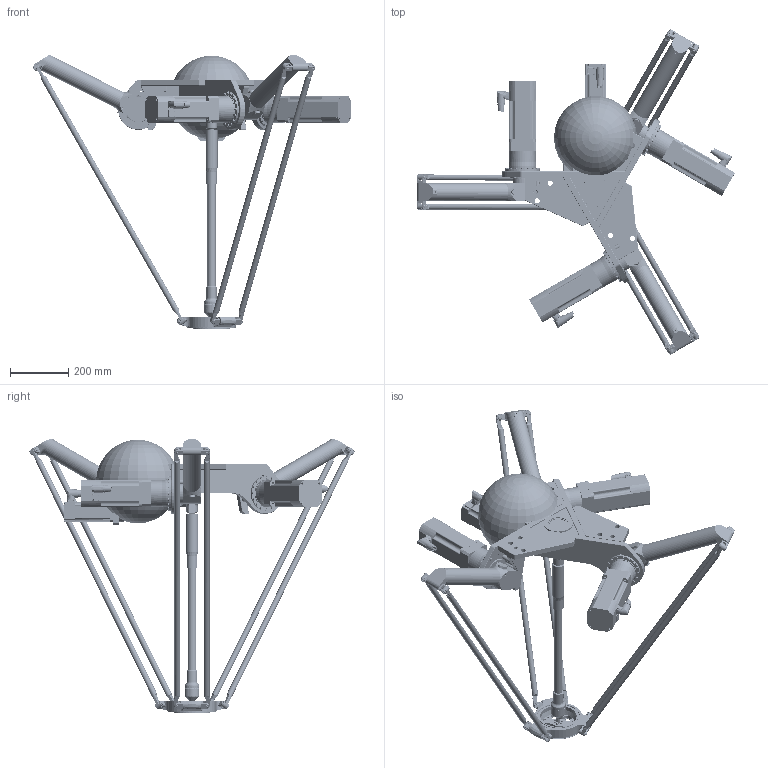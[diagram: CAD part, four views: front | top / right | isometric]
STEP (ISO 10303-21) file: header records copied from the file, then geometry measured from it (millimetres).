
FILE_DESCRIPTION (( 'STEP AP214' ), '1' );
FILE_NAME ('DR4120C-AX006.STEP', '2020-04-07T06:48:44', ( '' ), ( '' ), 'SwSTEP 2.0', 'SolidWorks 2017', '' );
FILE_SCHEMA (( 'AUTOMOTIVE_DESIGN' ));
Length unit declared in the file: millimetre
Products named in the file (4): DR4120C-AX006_3D_ohne_Motor; 8LSA35_DB060S200_3_5; DR4120C-AX006; 8LSAA2_D9045S200_3_1
Assembly tree (5 placements, depth 2):
  DR4120C-AX006
    DR4120C-AX006_3D_ohne_Motor
    8LSAA2_D9045S200_3_1
    8LSA35_DB060S200_3_5  x3
Bounding box: 1088.24 x 1112.38 x 938.36 mm (x, y, z)
Volume: 32454040.2 mm3; surface area: 2755901.6 mm2
Topology: 32 solids, 64 shells, 4996 faces, 11808 edges, 7534 vertices
Faces by surface type: plane 2686, cylinder 1450, cone 562, bspline 296, torus 2
Full cylindrical faces by diameter (mm): 1 x16, 3 x2, 3.242 x8, 3.3 x3, 3.459 x12, 4 x1, 4.13 x1, 4.3 x3, 4.5 x12, 4.917 x15, 5 x48, 5.3 x1, 5.5 x26, 5.8 x4, 6 x73, 6.5 x6, 6.647 x9, 7 x12, 7.318 x12, 7.5 x48, 8 x40, 8.5 x102, 10 x45, 11.4 x1, 12 x26, 14 x5, 14.5 x1, 15 x3, 15.4 x1, 16 x25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
Entity records: 182503 total; most frequent: CARTESIAN_POINT 61165, DIRECTION 16697, ORIENTED_EDGE 15762, EDGE_CURVE 7881, AXIS2_PLACEMENT_3D 6267, EDGE_LOOP 5490, VERTEX_POINT 5463, FACE_OUTER_BOUND 4628
